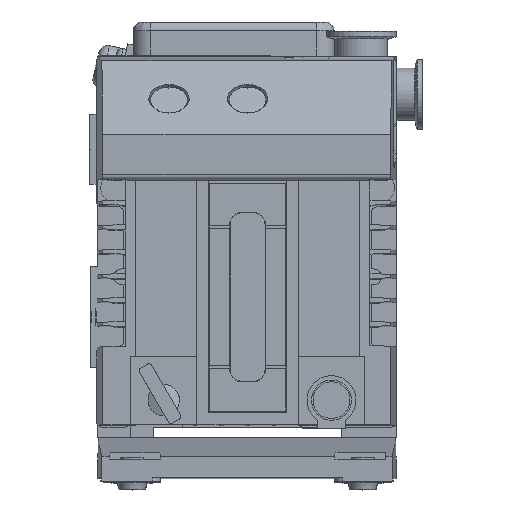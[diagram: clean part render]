
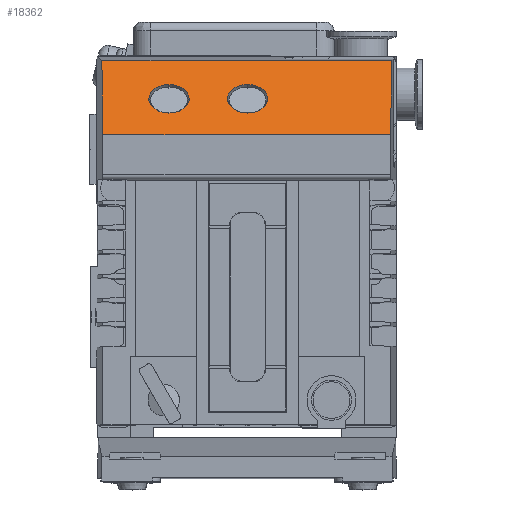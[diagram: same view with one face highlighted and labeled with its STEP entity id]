
A CAD part, top view. The second image highlights one B-rep face of the part: STEP entity #18362.
In plain terms, the highlighted planar face has unit normal (0, 0.707, 0.707) as drawn and (-0.707, 0.707, 0) by its records, which use the part's own axes.
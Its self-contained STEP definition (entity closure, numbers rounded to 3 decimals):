
#13629=DIRECTION('',(0.,0.,1.));
#13630=VECTOR('',#13629,165.799);
#13631=CARTESIAN_POINT('',(-204.101,123.399,
-83.399));
#13632=LINE('',#13631,#13630);
#13633=DIRECTION('',(0.707,0.707,0.009));
#13634=VECTOR('',#13633,59.964);
#13635=CARTESIAN_POINT('',(-246.5,81.,81.859));
#13636=LINE('',#13635,#13634);
#13637=DIRECTION('',(0.707,0.707,-0.009));
#13638=VECTOR('',#13637,59.964);
#13639=CARTESIAN_POINT('',(-246.5,81.,-82.859));
#13640=LINE('',#13639,#13638);
#13641=CARTESIAN_POINT('',(-225.994,101.506,0.));
#13642=DIRECTION('',(-0.707,0.707,0.));
#13643=DIRECTION('',(0.707,0.707,0.));
#13644=AXIS2_PLACEMENT_3D('',#13641,#13642,#13643);
#13646=CARTESIAN_POINT('',(-225.994,101.506,0.));
#13647=DIRECTION('',(-0.707,0.707,0.));
#13648=DIRECTION('',(-0.707,-0.707,0.));
#13649=AXIS2_PLACEMENT_3D('',#13646,#13647,#13648);
#13651=CARTESIAN_POINT('',(-225.994,101.506,-45.));
#13652=DIRECTION('',(-0.707,0.707,0.));
#13653=DIRECTION('',(0.707,0.707,0.));
#13654=AXIS2_PLACEMENT_3D('',#13651,#13652,#13653);
#13656=CARTESIAN_POINT('',(-225.994,101.506,-45.));
#13657=DIRECTION('',(-0.707,0.707,0.));
#13658=DIRECTION('',(-0.707,-0.707,0.));
#13659=AXIS2_PLACEMENT_3D('',#13656,#13657,#13658);
#13669=DIRECTION('',(0.,0.,1.));
#13670=VECTOR('',#13669,164.718);
#13671=CARTESIAN_POINT('',(-246.5,81.,-82.859));
#13672=LINE('',#13671,#13670);
#16400=CARTESIAN_POINT('',(-204.101,123.399,
-83.399));
#16401=CARTESIAN_POINT('',(-204.101,123.399,
82.399));
#16402=VERTEX_POINT('',#16400);
#16403=VERTEX_POINT('',#16401);
#16643=CARTESIAN_POINT('',(-246.5,81.,-82.859));
#16644=CARTESIAN_POINT('',(-246.5,81.,81.859));
#16645=VERTEX_POINT('',#16643);
#16646=VERTEX_POINT('',#16644);
#16969=CARTESIAN_POINT('',(-217.862,109.638,0.));
#16970=CARTESIAN_POINT('',(-234.126,93.374,0.));
#16971=VERTEX_POINT('',#16969);
#16972=VERTEX_POINT('',#16970);
#16987=CARTESIAN_POINT('',(-217.862,109.638,-45.));
#16988=CARTESIAN_POINT('',(-234.126,93.374,-45.));
#16989=VERTEX_POINT('',#16987);
#16990=VERTEX_POINT('',#16988);
#18338=CARTESIAN_POINT('',(-246.5,81.,-103.1));
#18339=DIRECTION('',(0.707,-0.707,0.));
#18340=DIRECTION('',(0.707,0.707,0.));
#18341=AXIS2_PLACEMENT_3D('',#18338,#18339,#18340);
#18342=PLANE('',#18341);
#18343=ORIENTED_EDGE('',*,*,#18184,.T.);
#18344=ORIENTED_EDGE('',*,*,#17374,.F.);
#18346=ORIENTED_EDGE('',*,*,#18345,.F.);
#18347=ORIENTED_EDGE('',*,*,#18138,.T.);
#18348=EDGE_LOOP('',(#18343,#18344,#18346,#18347));
#18349=FACE_OUTER_BOUND('',#18348,.F.);
#18351=ORIENTED_EDGE('',*,*,#18350,.T.);
#18353=ORIENTED_EDGE('',*,*,#18352,.T.);
#18354=EDGE_LOOP('',(#18351,#18353));
#18355=FACE_BOUND('',#18354,.F.);
#18357=ORIENTED_EDGE('',*,*,#18356,.T.);
#18359=ORIENTED_EDGE('',*,*,#18358,.T.);
#18360=EDGE_LOOP('',(#18357,#18359));
#18361=FACE_BOUND('',#18360,.F.);
#13645=CIRCLE('',#13644,11.5);
#13650=CIRCLE('',#13649,11.5);
#13655=CIRCLE('',#13654,11.5);
#13660=CIRCLE('',#13659,11.5);
#17374=EDGE_CURVE('',#16646,#16403,#13636,.T.);
#18138=EDGE_CURVE('',#16645,#16402,#13640,.T.);
#18184=EDGE_CURVE('',#16402,#16403,#13632,.T.);
#18345=EDGE_CURVE('',#16645,#16646,#13672,.T.);
#18350=EDGE_CURVE('',#16971,#16972,#13645,.T.);
#18352=EDGE_CURVE('',#16972,#16971,#13650,.T.);
#18356=EDGE_CURVE('',#16989,#16990,#13655,.T.);
#18358=EDGE_CURVE('',#16990,#16989,#13660,.T.);
#18362=ADVANCED_FACE('',(#18349,#18355,#18361),#18342,.F.);
